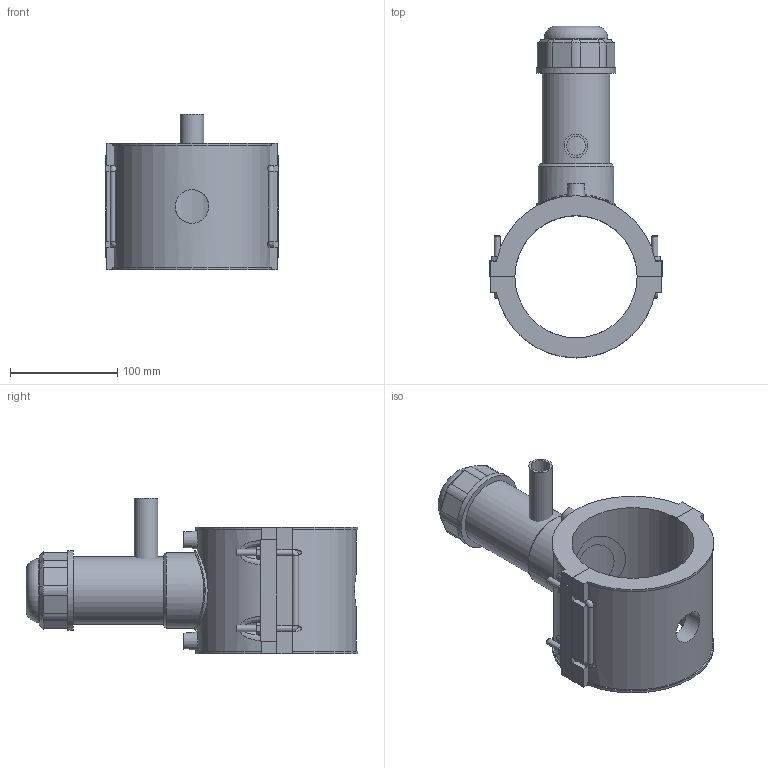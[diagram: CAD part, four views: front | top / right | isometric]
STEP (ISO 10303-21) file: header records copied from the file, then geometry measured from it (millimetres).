
FILE_DESCRIPTION(/* description */ ('PLASSON TAPPING SADDLE 4''''IPS x 3/4''''CTS'),/* implementation_level */ '2;1');
FILE_NAME(/* name */ 'C:\Dropbox\KIMPROJECTS-Inventor 2019\99-16-3568-Processing Inch\ASTM ElectroFusion 2021\5963BBP_5963BUP\5963BUP3040007.ipt.stp',/* time_stamp */ '2021-08-30T09:57:47+03:00',/* author */ ('KIM'),/* organization */ (''),/* preprocessor_version */ 'ST-DEVELOPER v17.2',/* originating_system */ 'Autodesk Inventor 2019',/* authorisation */ '');
FILE_SCHEMA (('AUTOMOTIVE_DESIGN { 1 0 10303 214 3 1 1 }'));
Length unit declared in the file: inch
Products named in the file (1): 5963BUP3040007
Bounding box: 161 x 309.74 x 145.16 mm (x, y, z)
Volume: 1229017.9 mm3; surface area: 215935.8 mm2
Topology: 3 solids, 3 shells, 195 faces, 500 edges, 321 vertices
Faces by surface type: plane 112, cylinder 54, cone 15, bspline 13, torus 1
Full cylindrical faces by diameter (mm): 4 x2, 6 x8, 10 x2, 17.68 x1, 22.1 x1, 31.36 x1, 51.915 x1, 59.332 x1, 63.04 x1, 70.457 x1, 74.165 x2
Entity records: 7084 total; most frequent: CARTESIAN_POINT 2337, ORIENTED_EDGE 984, DIRECTION 951, EDGE_CURVE 492, AXIS2_PLACEMENT_3D 325, VERTEX_POINT 321, LINE 301, VECTOR 301
